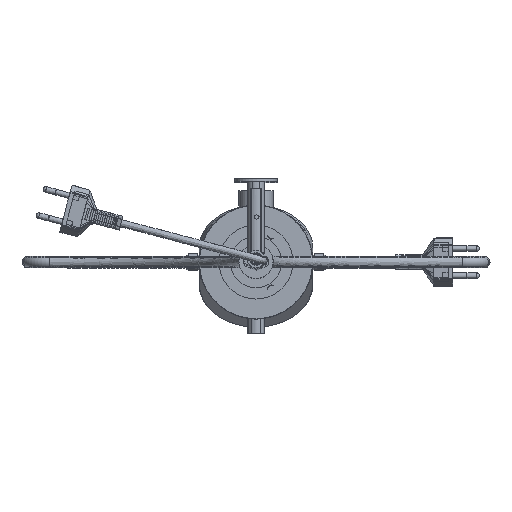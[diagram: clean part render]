
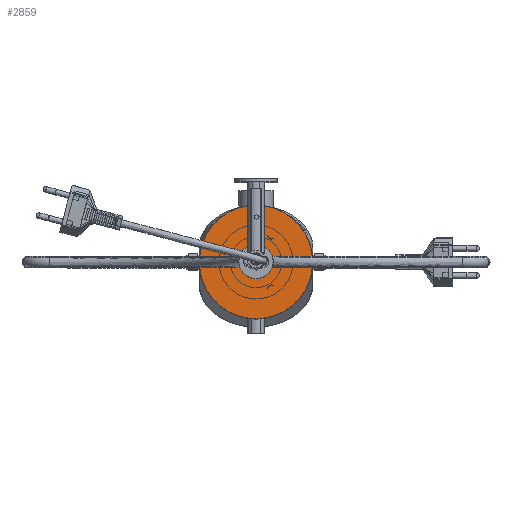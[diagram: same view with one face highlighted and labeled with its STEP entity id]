
A CAD part, top view. The second image highlights one B-rep face of the part: STEP entity #2859.
In plain terms, the highlighted planar face has unit normal (0, 0, 1) as drawn and (0, 0, -1) by its records, which use the part's own axes.
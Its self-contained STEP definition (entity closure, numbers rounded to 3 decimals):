
#2859 = ADVANCED_FACE( '', ( #4448 ), #4449, .T. );
#4448 = FACE_OUTER_BOUND( '', #8239, .T. );
#4449 = PLANE( '', #8240 );
#8239 = EDGE_LOOP( '', ( #10366 ) );
#8240 = AXIS2_PLACEMENT_3D( '', #10367, #10368, #10369 );
#10366 = ORIENTED_EDGE( '', *, *, #13281, .T. );
#10367 = CARTESIAN_POINT( '', ( 0., 0., -10. ) );
#10368 = DIRECTION( '', ( 0., 0., -1. ) );
#10369 = DIRECTION( '', ( -1., 0., 0. ) );
#13281 = EDGE_CURVE( '', #14577, #14577, #14578, .T. );
#14577 = VERTEX_POINT( '', #17354 );
#14578 = CIRCLE( '', #17355, 39.75 );
#17354 = CARTESIAN_POINT( '', ( -39.75, 0., -10. ) );
#17355 = AXIS2_PLACEMENT_3D( '', #19601, #19602, #19603 );
#19601 = CARTESIAN_POINT( '', ( 0., 0., -10. ) );
#19602 = DIRECTION( '', ( 0., 0., -1. ) );
#19603 = DIRECTION( '', ( -1., 0., 0. ) );
